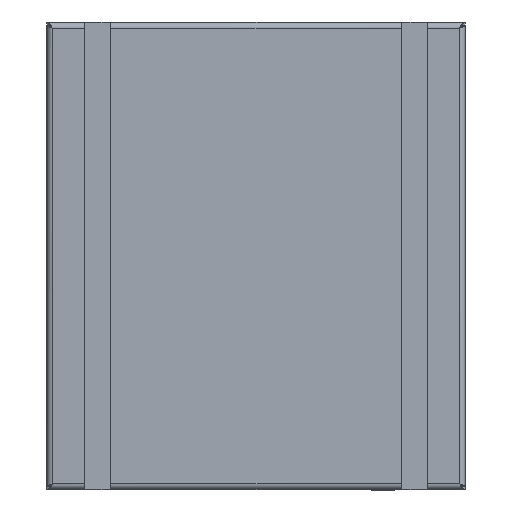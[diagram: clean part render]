
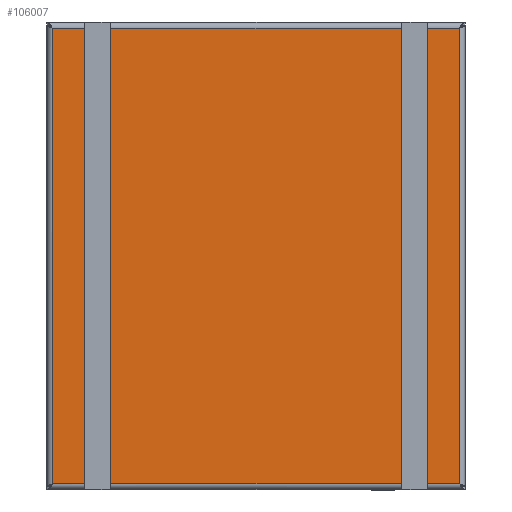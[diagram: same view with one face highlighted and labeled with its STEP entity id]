
A CAD part, top view. The second image highlights one B-rep face of the part: STEP entity #106007.
In plain terms, the highlighted planar face has unit normal (0, 0, 1).
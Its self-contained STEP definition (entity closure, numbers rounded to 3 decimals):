
#5235 = VERTEX_POINT ( 'NONE', #109090 ) ;
#8147 = VECTOR ( 'NONE', #10863, 39.37 ) ;
#8687 = VECTOR ( 'NONE', #36482, 39.37 ) ;
#10863 = DIRECTION ( 'NONE',  ( 0., 1., 0. ) ) ;
#13123 = EDGE_CURVE ( 'NONE', #5235, #14724, #100510, .T. ) ;
#14724 = VERTEX_POINT ( 'NONE', #74549 ) ;
#15344 = DIRECTION ( 'NONE',  ( 1., 0., 0. ) ) ;
#16535 = ORIENTED_EDGE ( 'NONE', *, *, #13123, .T. ) ;
#19535 = CARTESIAN_POINT ( 'NONE',  ( 4.03, -4.515, 0. ) ) ;
#21716 = CARTESIAN_POINT ( 'NONE',  ( 4.03, 4.515, 0. ) ) ;
#31050 = LINE ( 'NONE', #19535, #8147 ) ;
#33647 = VERTEX_POINT ( 'NONE', #107624 ) ;
#34752 = VECTOR ( 'NONE', #15344, 39.37 ) ;
#35046 = ORIENTED_EDGE ( 'NONE', *, *, #64930, .T. ) ;
#36482 = DIRECTION ( 'NONE',  ( 0., -1., 0. ) ) ;
#37895 = VERTEX_POINT ( 'NONE', #55679 ) ;
#42718 = FACE_OUTER_BOUND ( 'NONE', #44536, .T. ) ;
#42951 = ORIENTED_EDGE ( 'NONE', *, *, #56243, .T. ) ;
#44536 = EDGE_LOOP ( 'NONE', ( #16535, #45940, #42951, #35046 ) ) ;
#45940 = ORIENTED_EDGE ( 'NONE', *, *, #46135, .T. ) ;
#46135 = EDGE_CURVE ( 'NONE', #14724, #37895, #31050, .T. ) ;
#50351 = DIRECTION ( 'NONE',  ( -1., 0., 0. ) ) ;
#55679 = CARTESIAN_POINT ( 'NONE',  ( 4.03, 4.515, 0. ) ) ;
#56243 = EDGE_CURVE ( 'NONE', #37895, #33647, #64878, .T. ) ;
#57395 = CARTESIAN_POINT ( 'NONE',  ( -4.03, -4.515, 0. ) ) ;
#64878 = LINE ( 'NONE', #21716, #82342 ) ;
#64930 = EDGE_CURVE ( 'NONE', #33647, #5235, #77227, .T. ) ;
#65289 = AXIS2_PLACEMENT_3D ( 'NONE', #93117, #101732, #50351 ) ;
#74549 = CARTESIAN_POINT ( 'NONE',  ( 4.03, -4.515, 0. ) ) ;
#77227 = LINE ( 'NONE', #96491, #8687 ) ;
#82342 = VECTOR ( 'NONE', #90371, 39.37 ) ;
#84501 = PLANE ( 'NONE',  #65289 ) ;
#90371 = DIRECTION ( 'NONE',  ( -1., 0., 0. ) ) ;
#93117 = CARTESIAN_POINT ( 'NONE',  ( 0., 0., 0. ) ) ;
#96491 = CARTESIAN_POINT ( 'NONE',  ( -4.03, 4.515, 0. ) ) ;
#100510 = LINE ( 'NONE', #57395, #34752 ) ;
#101732 = DIRECTION ( 'NONE',  ( 0., 0., -1. ) ) ;
#106007 = ADVANCED_FACE ( 'NONE', ( #42718 ), #84501, .F. ) ;
#107624 = CARTESIAN_POINT ( 'NONE',  ( -4.03, 4.515, 0. ) ) ;
#109090 = CARTESIAN_POINT ( 'NONE',  ( -4.03, -4.515, 0. ) ) ;
